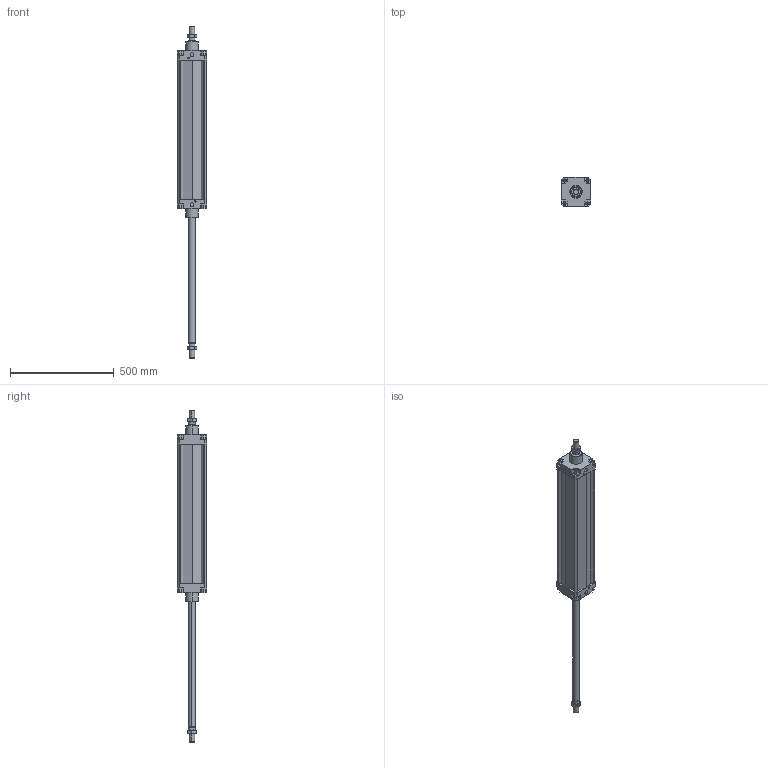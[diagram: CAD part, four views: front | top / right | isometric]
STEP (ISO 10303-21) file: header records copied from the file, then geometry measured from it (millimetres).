
FILE_DESCRIPTION((''),'2;1');
FILE_NAME('I:\DOC-EDP\Lib-3d\1319\CILINDRI\Ø125\1319_125_0600_02.stp','2003-04-08T12:27:01',('maffial1'),(''),'Autodesk Inventor (R) 6.0','Autodesk Inventor (R) 6.0','');
FILE_SCHEMA(('AUTOMOTIVE_DESIGN { 1 0 10303 214 1 1 1 1 }'));
Length unit declared in the file: millimetre
Products named in the file (4): 1319_125_0600_02; CIM04_125_600; CIM03_125_600; 1320_125_18F
Assembly tree (4 placements, depth 2):
  1319_125_0600_02
    CIM04_125_600
    CIM03_125_600
    1320_125_18F  x2
Bounding box: 140 x 140 x 1598 mm (x, y, z)
Volume: 13114083.4 mm3; surface area: 762799.4 mm2
Topology: 4 solids, 4 shells, 290 faces, 724 edges, 452 vertices
Faces by surface type: plane 130, bspline 72, cone 60, cylinder 28
Entity records: 8094 total; most frequent: CARTESIAN_POINT 1972, ORIENTED_EDGE 1288, DIRECTION 1160, EDGE_CURVE 644, VECTOR 480, LINE 480, VERTEX_POINT 416, AXIS2_PLACEMENT_3D 340
